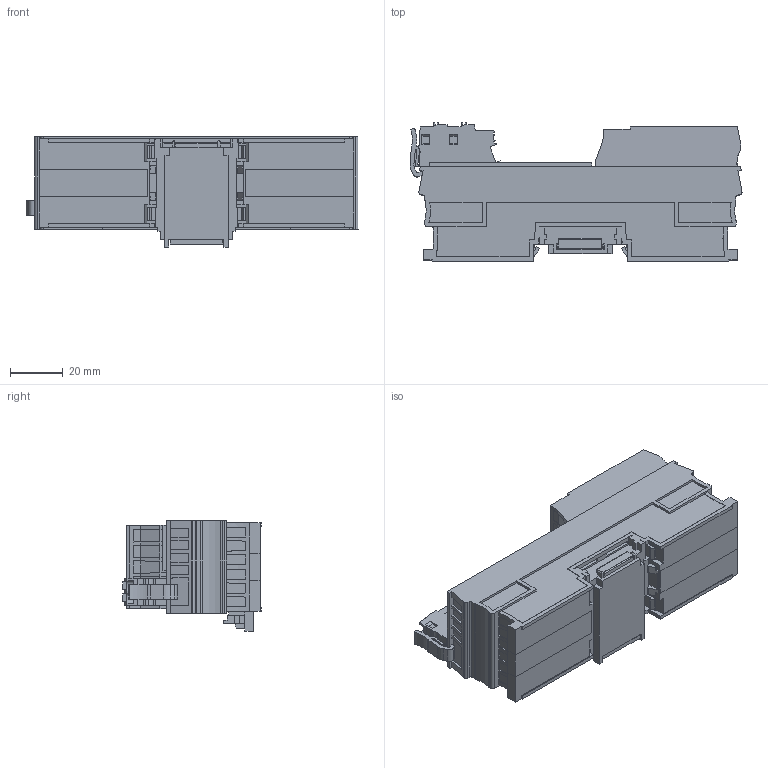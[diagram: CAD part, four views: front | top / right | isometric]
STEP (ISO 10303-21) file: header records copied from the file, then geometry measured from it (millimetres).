
FILE_DESCRIPTION((''),'2;1');
FILE_NAME('CU_REM-11190','2017-05-11T',('dkendric'),(''),'CREO PARAMETRIC BY PTC INC, 2015380','CREO PARAMETRIC BY PTC INC, 2015380','');
FILE_SCHEMA(('CONFIG_CONTROL_DESIGN'));
Length unit declared in the file: inch
Products named in the file (1): CU_REM-11190
Bounding box: 125.78 x 52.4 x 41.8 mm (x, y, z)
Volume: 164521.2 mm3; surface area: 31260.1 mm2
Topology: 1 solids, 1 shells, 1047 faces, 3051 edges, 2048 vertices
Faces by surface type: plane 889, cylinder 150, cone 8
Entity records: 34566 total; most frequent: CARTESIAN_POINT 6764, ORIENTED_EDGE 6102, DIRECTION 5288, EDGE_CURVE 3051, VECTOR 2556, LINE 2556, VERTEX_POINT 2048, AXIS2_PLACEMENT_3D 1366
